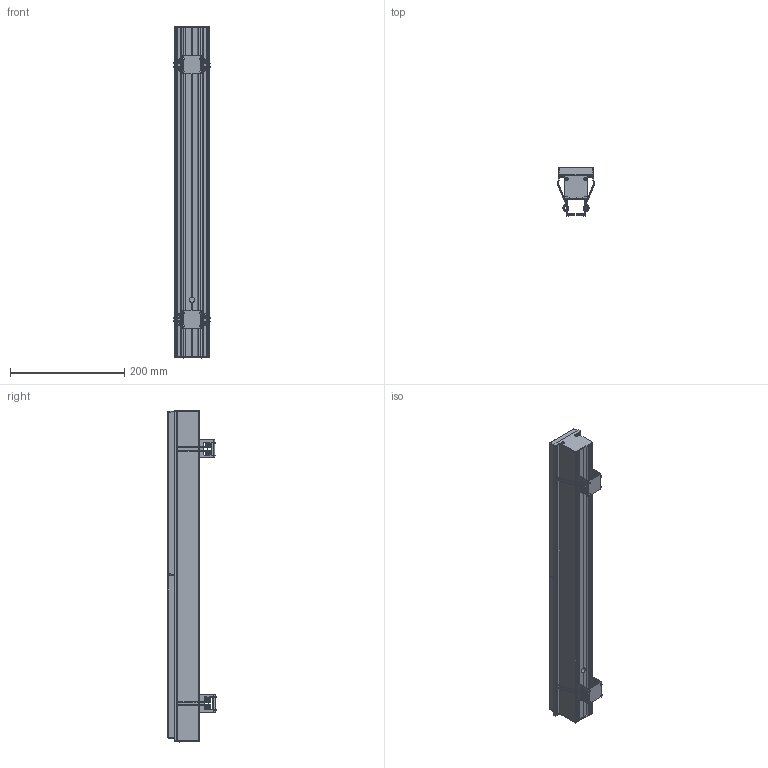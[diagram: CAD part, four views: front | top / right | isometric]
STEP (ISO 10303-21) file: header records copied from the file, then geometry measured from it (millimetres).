
FILE_DESCRIPTION (( 'STEP AP214' ), '1' );
FILE_NAME ('Pixel E 05.STEP', '2017-10-10T10:04:47', ( 'tecnica2' ), ( 'Microsoft' ), 'SwSTEP 2.0', 'SolidWorks 2016', '' );
FILE_SCHEMA (( 'AUTOMOTIVE_DESIGN' ));
Length unit declared in the file: millimetre
Products named in the file (9): Pixel E 05; Ensamblaje kit empotrable-BIM; muelle perfil-BIM; soporte muelle-BIM_flexado; TT 65 T 3X6; Tapa-BIM_definitiva; Perfil DRIVER-BIM_X2 (L:578mm); lente-BIM; Perfil LED-BIM_X2 (L:578)
Assembly tree (15 placements, depth 3):
  Pixel E 05
    Perfil LED-BIM_X2 (L:578)
    lente-BIM  x2
    Perfil DRIVER-BIM_X2 (L:578mm)
    Tapa-BIM_definitiva  x2
    TT 65 T 3X6  x4
    Ensamblaje kit empotrable-BIM  x2
      soporte muelle-BIM_flexado
      muelle perfil-BIM
Bounding box: 65.27 x 85.14 x 582 mm (x, y, z)
Volume: 1475562 mm3; surface area: 327766.9 mm2
Topology: 18 solids, 18 shells, 1002 faces, 2466 edges, 1476 vertices
Faces by surface type: cylinder 362, plane 324, bspline 216, cone 84, torus 8, sphere 8
Full cylindrical faces by diameter (mm): 1.3 x8
Entity records: 17100 total; most frequent: CARTESIAN_POINT 6640, ORIENTED_EDGE 1984, DIRECTION 1840, EDGE_CURVE 992, AXIS2_PLACEMENT_3D 641, VERTEX_POINT 618, VECTOR 558, LINE 558
